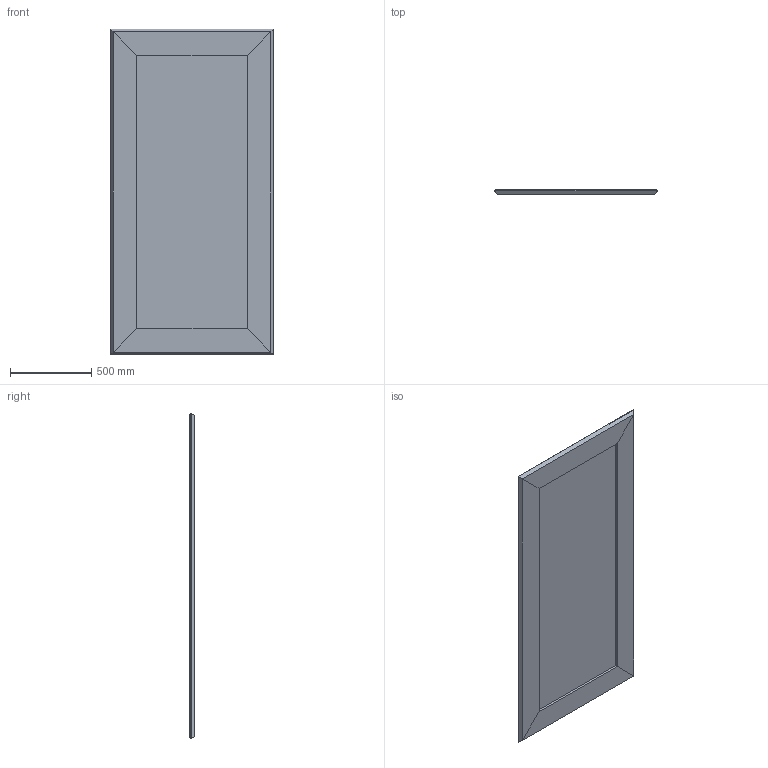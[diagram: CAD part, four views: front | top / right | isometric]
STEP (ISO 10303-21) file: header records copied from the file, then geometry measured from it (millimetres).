
FILE_DESCRIPTION (( 'STEP AP203' ), '1' );
FILE_NAME ('PRI05_Prisma_200x100.STEP', '2024-08-06T07:47:16', ( '' ), ( '' ), 'SwSTEP 2.0', 'SolidWorks 2022', '' );
FILE_SCHEMA (( 'CONFIG_CONTROL_DESIGN' ));
Length unit declared in the file: millimetre
Products named in the file (1): PRI05_Prisma_200x100
Bounding box: 1000 x 30 x 2000 mm (x, y, z)
Volume: 35235911.3 mm3; surface area: 4641259.5 mm2
Topology: 5 solids, 5 shells, 166 faces, 424 edges, 272 vertices
Faces by surface type: plane 98, cylinder 44, cone 24
Entity records: 5101 total; most frequent: DIRECTION 870, CARTESIAN_POINT 863, ORIENTED_EDGE 848, EDGE_CURVE 424, LINE 312, VECTOR 312, AXIS2_PLACEMENT_3D 279, VERTEX_POINT 272
